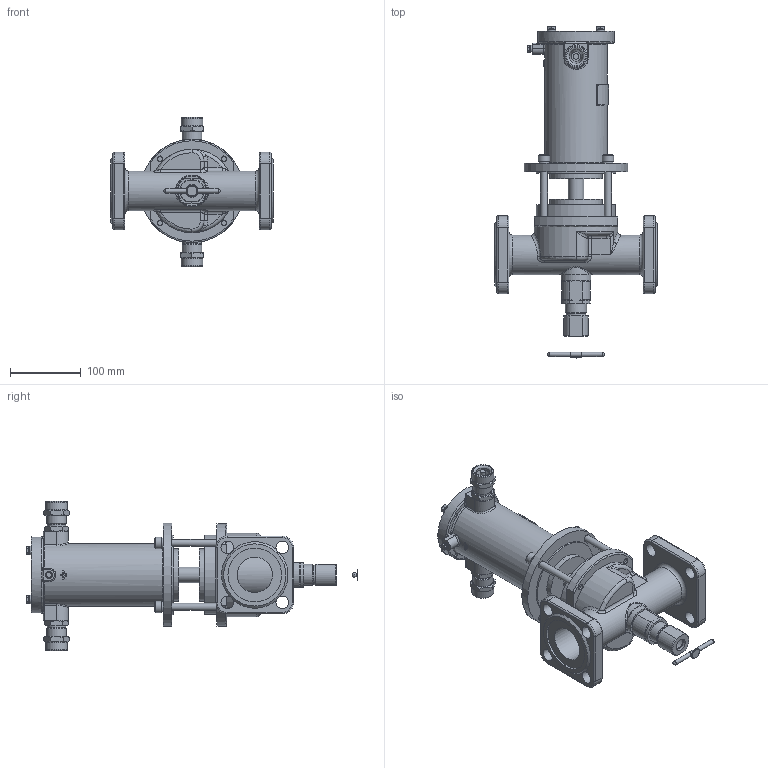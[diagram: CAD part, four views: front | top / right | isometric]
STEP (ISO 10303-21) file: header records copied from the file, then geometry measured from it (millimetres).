
FILE_DESCRIPTION(('STEP AP203'), '1');
FILE_NAME('ÑÅÍÑ DN50PN25-Â-ÍÎ-200Ñ.stp', '2018-09-19T08:54:24', ('Îðëîâ Å.Â.'), ('ÎÎÎ ÍÏÏ Ñåíñîð'), 'ASCON STEP Converter 1.3', 'Kompas 3D', '');
FILE_SCHEMA(('CONFIG_CONTROL_DESIGN','SUPPORT_RESOURCE_SCHEMA'));
Length unit declared in the file: millimetre
Products named in the file (1): 99
Bounding box: 230 x 469.7 x 211 mm (x, y, z)
Volume: 1607714.4 mm3; surface area: 449055.6 mm2
Topology: 2 solids, 20 shells, 2000 faces, 5283 edges, 3413 vertices
Faces by surface type: cylinder 1019, plane 734, cone 130, torus 50, bspline 47, extrusion 16, sphere 4
Full cylindrical faces by diameter (mm): 3.5 x2, 4.134 x1, 4.917 x4, 5 x1, 6 x11, 6.5 x4, 8 x8, 8.376 x4, 9 x1, 10 x5, 11 x4, 12 x4, 13 x2, 16 x6, 17 x2, 18 x9, 20 x4, 20.9 x1, 22 x3, 22.376 x2, 23 x1, 23.5 x2, 24 x2, 24.5 x2, 26 x4, 26.376 x2, 27.8 x1, 28 x3, 28.5 x2, 30 x2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
Entity records: 77699 total; most frequent: CARTESIAN_POINT 27036, DIRECTION 10997, ORIENTED_EDGE 10508, EDGE_CURVE 5254, AXIS2_PLACEMENT_3D 4229, VERTEX_POINT 3413, VECTOR 2539, LINE 2523
